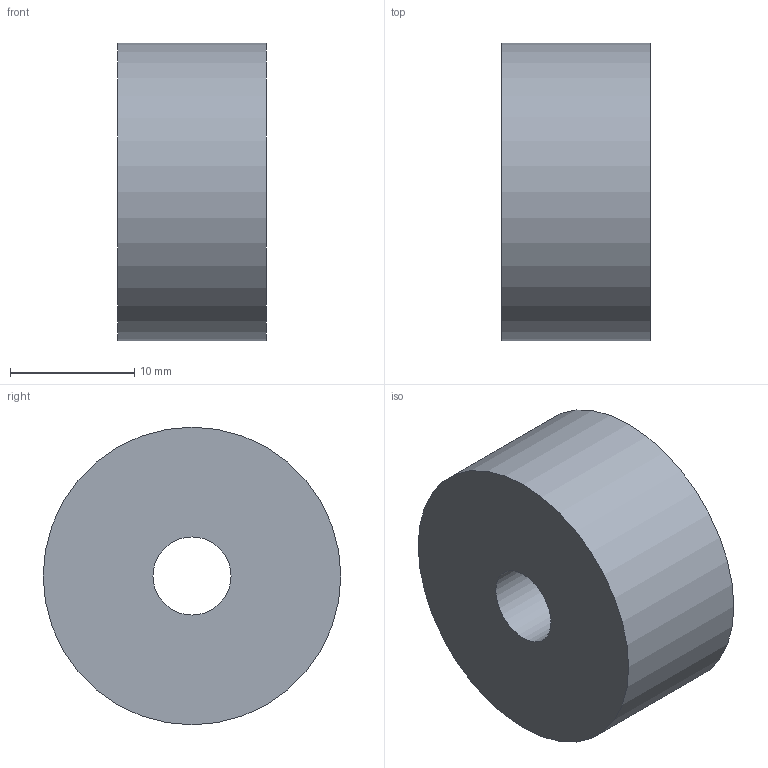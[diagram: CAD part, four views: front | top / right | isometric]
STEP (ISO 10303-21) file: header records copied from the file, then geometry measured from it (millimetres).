
FILE_DESCRIPTION(('Open CASCADE Model'),'2;1');
FILE_NAME('Open CASCADE Shape Model','2026-09-11T00:16:40',('Author'),( 'Open CASCADE'),'Open CASCADE STEP processor 7.9','Open CASCADE 7.9' ,'Unknown');
FILE_SCHEMA(('AUTOMOTIVE_DESIGN { 1 0 10303 214 1 1 1 1 }'));
Length unit declared in the file: millimetre
Products named in the file (1): Open CASCADE STEP translator 7.9 9
Bounding box: 12 x 24 x 24 mm (x, y, z)
Volume: 4888.3 mm3; surface area: 2143.1 mm2
Topology: 1 solids, 1 shells, 8 faces, 12 edges, 8 vertices
Faces by surface type: cylinder 4, plane 4
Full cylindrical faces by diameter (mm): 4.2 x2, 6.3 x1, 24 x1
Entity records: 360 total; most frequent: CARTESIAN_POINT 65, DIRECTION 60, ORIENTED_EDGE 24, PCURVE 24, DEFINITIONAL_REPRESENTATION 24, LINE 20, VECTOR 20, AXIS2_PLACEMENT_3D 17
